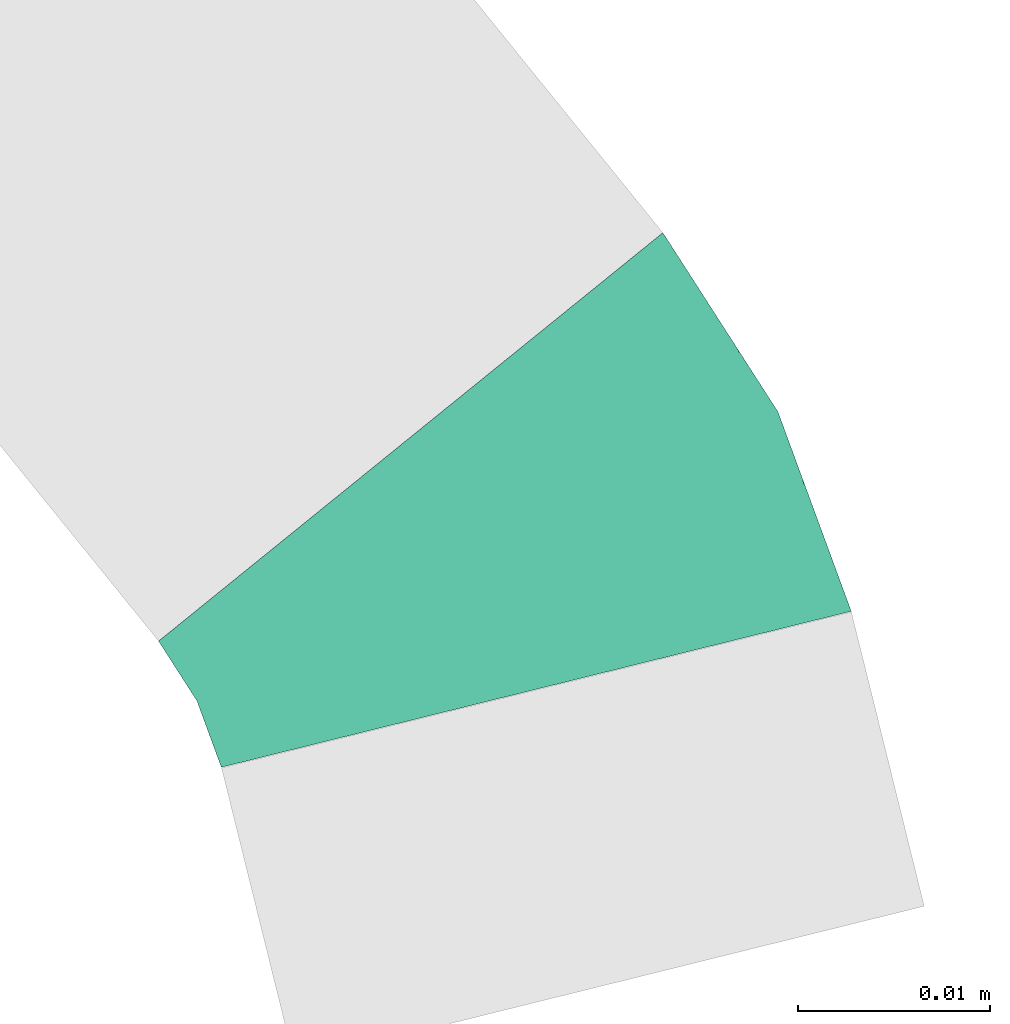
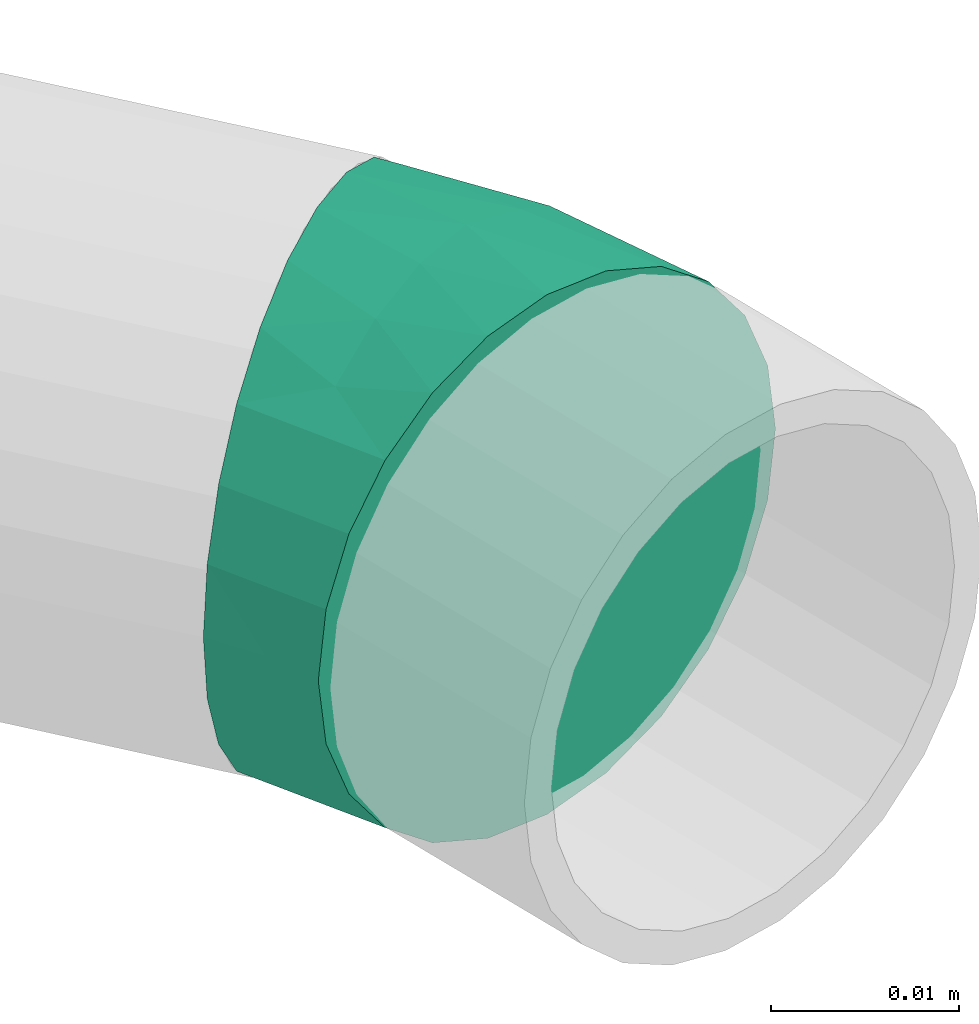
# One storey, part 63 of 63: 1 flow fitting.
"""IFC2X3 building model written with IfcOpenShell, lengths in millimetres."""

from ifc_helpers import new_model, entity, si_unit, converted_unit, derived_unit, direction, frame, origin_with_axes, place, context, subcontext, project, spatial, open_shell, surface_model, source, transform, mapped, type_object, element, save


model = new_model("IFC2X3")

# Units and contexts
model_context = context("Model", 3, precision=0.01, world=frame((0.0, 4.29681676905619e-09, 0.0)), true_north=direction((4.01073788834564e-13, 1.0)))
plan_context = context("Plan", 3, precision=0.01, world=frame((0.0, 4.29681676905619e-09, 0.0)), true_north=direction((4.01073788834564e-13, 1.0)))
body_context = subcontext(model_context, "Body", "Model", "MODEL_VIEW")
ifc_project = project(units=[converted_unit("PLANEANGLEUNIT", "DEGREE", entity("IfcPositiveLengthMeasure", 0.0174532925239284), si_unit("PLANEANGLEUNIT", "RADIAN"), dimensions=[0, 0, 0, 0, 0, 0, 0]), si_unit("AREAUNIT", "SQUARE_METRE"), si_unit("LENGTHUNIT", "METRE", prefix="MILLI"), si_unit("MASSUNIT", "GRAM", prefix="KILO"), si_unit("POWERUNIT", "WATT"), si_unit("PRESSUREUNIT", "PASCAL", prefix="KILO"), si_unit("FORCEUNIT", "NEWTON", prefix="KILO"), si_unit("ELECTRICVOLTAGEUNIT", "VOLT"), si_unit("ELECTRICCURRENTUNIT", "AMPERE"), si_unit("THERMODYNAMICTEMPERATUREUNIT", "DEGREE_CELSIUS"), si_unit("TIMEUNIT", "SECOND"), si_unit("VOLUMEUNIT", "CUBIC_METRE"), derived_unit("LINEARVELOCITYUNIT", [(si_unit("LENGTHUNIT", "METRE"), 1), (si_unit("TIMEUNIT", "SECOND"), -1)]), derived_unit("VOLUMETRICFLOWRATEUNIT", [(si_unit("VOLUMEUNIT", "CUBIC_METRE"), 1), (si_unit("TIMEUNIT", "SECOND"), -1)]), derived_unit("THERMALTRANSMITTANCEUNIT", [(si_unit("POWERUNIT", "WATT"), 1), (si_unit("THERMODYNAMICTEMPERATUREUNIT", "KELVIN"), -1), (si_unit("AREAUNIT", "SQUARE_METRE"), -1)]), derived_unit("SOUNDPRESSUREUNIT", [(si_unit("PRESSUREUNIT", "PASCAL"), 1)])], contexts=[model_context, plan_context])

# Site, building, storey
site_placement = place(None, frame((0.0, -4.29681676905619e-09, 0.0), z_axis=(0.0, 0.0, 1.0), x_axis=(1.0, 0.0, 0.0)))
site = spatial("IfcSite", under=ifc_project, at=site_placement, CompositionType="ELEMENT")
building_placement = place(site_placement, frame((0.0, 4.29681676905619e-09, 0.0), z_axis=(0.0, 0.0, 1.0), x_axis=(1.0, 0.0, 0.0)))
building = spatial("IfcBuilding", under=site, at=building_placement, Name="mc-building", CompositionType="ELEMENT")
storey_placement = place(building_placement, frame((0.0, 0.0, 207370.0), z_axis=(0.0, 0.0, 1.0), x_axis=(1.0, 0.0, 0.0)))
storey = spatial("IfcBuildingStorey", under=building, at=storey_placement, Name="Nivå E", CompositionType="ELEMENT", Elevation=207370.0)

# Flow fitting
pipe_fitting_type = type_object("IfcPipeFittingType", Name="magi_pipe_fe_elbow_short_001", PredefinedType="BEND")
shared_shape = source(origin_with_axes(), body_context, "Body", "SurfaceModel", [
    surface_model("IfcShellBasedSurfaceModel", [(-7.52188, 4.37404, -16.32415), (-7.52188, 0.0, -16.9), (-7.52188, 11.9501, -11.9501), (-7.52188, 8.45, -14.63583), (-7.52188, 16.32415, -4.37404), (-7.52188, 14.63583, -8.45), (-7.52188, -14.63583, -8.45), (-7.52188, -16.32415, -4.37404), (-7.52188, -8.45, 14.63583), (-7.52188, -11.9501, -11.9501), (-7.52188, -8.45, -14.63583), (-7.52188, -4.37404, -16.32415), (-7.52188, -16.9, 0.0), (-7.52188, -16.32415, 4.37404), (-7.52188, 11.9501, 11.9501), (-7.52188, 16.32415, 4.37404), (-7.52188, 14.63583, 8.45), (-7.52188, 4.37404, 16.32415), (-7.52188, 8.45, 14.63583), (-7.52188, -14.63583, 8.45), (-7.52188, -11.9501, 11.9501), (-7.52188, -4.37404, 16.32415), (-7.52188, 0.0, 16.9), (-7.52188, 16.9, 0.0), (4.95706, 7.15111, -16.32415), (13.01875, -10.0647, -8.45), (6.812, 3.18987, -16.9), (-0.11073, 17.97343, -4.37404), (3.22853, 10.8424, -14.63583), (1.74421, 14.01219, -11.9501), (0.60525, 16.44445, -8.45), (-0.11073, 17.97343, 4.37404), (10.39547, -4.46266, -14.63583), (11.87979, -7.63244, -11.9501), (8.66694, -0.77137, -16.32415), (13.73473, -11.59368, -4.37404), (13.01875, -10.0647, 8.45), (13.97894, -12.11519, 0.0), (11.87979, -7.63244, 11.9501), (4.95706, 7.15111, 16.32415), (0.60525, 16.44445, 8.45), (1.74421, 14.01219, 11.9501), (3.22853, 10.8424, 14.63583), (6.812, 3.18987, 16.9), (13.73473, -11.59368, 4.37404), (10.39547, -4.46266, 14.63583), (8.66694, -0.77137, 16.32415), (-0.35494, 18.49494, 0.0), (2.10856, -9.47494, 13.21567), (0.85578, -12.82378, 10.07235), (3.2408, -14.56274, 6.13828), (0.59096, -5.89266, 15.50941), (0.35737, -1.60586, 16.71823), (-0.60551, 2.72088, 16.78589), (-2.3791, 10.69064, 13.531), (-3.85075, 17.30355, 0.0), (-0.31235, -16.09073, 3.12292), (-1.53908, 6.91593, 15.69854), (3.49152, -15.68934, 0.0), (6.96477, -14.4825, 3.12292), (0.35737, -1.60586, -16.71823), (1.96376, -5.58716, -15.50941), (2.10856, -9.47494, -13.21567), (-0.60551, 2.72088, -16.78589), (4.66329, -11.97645, -10.07235), (3.2408, -14.56274, -6.13828), (-2.3791, 10.69064, -13.531), (7.10662, -14.43971, -3.12292), (-1.53908, 6.91593, -15.69854), (-0.16574, -16.06933, -3.12292)], [open_shell([[[0, 1, 2]], [[3, 0, 2]], [[4, 5, 2]], [[6, 2, 1]], [[2, 7, 8]], [[9, 6, 10]], [[1, 11, 10]], [[1, 10, 6]], [[6, 7, 2]], [[12, 13, 7]], [[4, 2, 14]], [[14, 15, 4]], [[16, 15, 14]], [[17, 18, 14]], [[2, 8, 14]], [[17, 14, 8]], [[19, 20, 13]], [[13, 20, 7]], [[21, 22, 8]], [[20, 8, 7]], [[8, 22, 17]], [[23, 4, 15]], [[24, 25, 26]], [[27, 24, 28]], [[29, 30, 27]], [[29, 27, 28]], [[31, 25, 24]], [[32, 25, 33]], [[32, 34, 26]], [[35, 36, 37]], [[32, 26, 25]], [[35, 25, 36]], [[31, 24, 27]], [[31, 38, 25]], [[39, 31, 40]], [[41, 42, 39]], [[41, 39, 40]], [[43, 31, 39]], [[38, 36, 25]], [[44, 37, 36]], [[45, 43, 46]], [[43, 45, 38]], [[43, 38, 31]], [[31, 27, 47]], [[48, 20, 49]], [[8, 20, 48]], [[20, 19, 49]], [[44, 36, 50]], [[21, 8, 51]], [[51, 52, 21]], [[19, 50, 49]], [[22, 21, 52]], [[22, 53, 17]], [[46, 43, 52]], [[50, 19, 13]], [[38, 45, 48]], [[16, 14, 40]], [[54, 14, 18]], [[45, 51, 48]], [[8, 48, 51]], [[43, 39, 53]], [[55, 15, 31]], [[56, 50, 13]], [[55, 23, 15]], [[31, 15, 16]], [[53, 57, 17]], [[18, 17, 57]], [[52, 53, 22]], [[12, 58, 56]], [[36, 49, 50]], [[51, 45, 46]], [[52, 51, 46]], [[53, 52, 43]], [[38, 48, 49]], [[38, 49, 36]], [[37, 44, 59]], [[40, 31, 16]], [[47, 55, 31]], [[57, 54, 18]], [[14, 54, 41]], [[44, 50, 59]], [[57, 42, 54]], [[59, 56, 58]], [[54, 42, 41]], [[37, 59, 58]], [[40, 14, 41]], [[53, 39, 57]], [[12, 56, 13]], [[59, 50, 56]], [[39, 42, 57]], [[1, 60, 11]], [[10, 61, 62]], [[34, 32, 61]], [[1, 0, 63]], [[29, 2, 5]], [[6, 64, 65]], [[29, 66, 2]], [[67, 65, 35]], [[4, 27, 5]], [[33, 25, 64]], [[60, 63, 26]], [[3, 68, 0]], [[12, 7, 69]], [[69, 65, 67]], [[62, 9, 10]], [[63, 68, 24]], [[7, 6, 65]], [[6, 9, 64]], [[11, 61, 10]], [[2, 66, 3]], [[7, 65, 69]], [[37, 67, 35]], [[4, 23, 55]], [[55, 47, 27]], [[12, 69, 58]], [[25, 65, 64]], [[27, 30, 5]], [[29, 5, 30]], [[9, 62, 64]], [[28, 24, 68]], [[11, 60, 61]], [[60, 1, 63]], [[66, 29, 28]], [[32, 62, 61]], [[26, 63, 24]], [[34, 61, 60]], [[63, 0, 68]], [[68, 3, 66]], [[62, 32, 33]], [[25, 35, 65]], [[69, 67, 58]], [[37, 58, 67]], [[33, 64, 62]], [[68, 66, 28]], [[34, 60, 26]], [[4, 55, 27]]])]),
])
flow_fitting_placement = place(storey_placement, frame((727386.26479, 443456.16986, 7030.0), z_axis=(0.0, 0.0, 1.0), x_axis=(-0.24035689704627, 0.970684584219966, 0.0)))
element("IfcFlowFitting", 1, at=flow_fitting_placement, inside=storey, type_object=pipe_fitting_type, Name="magi_pipe_fe_elbow_short_001", context=body_context, shape_type="MappedRepresentation", body=[
    mapped(shared_shape, transform((0.0, 0.0, 0.0), scale=1.0)),
])

save(model, "model.ifc")
